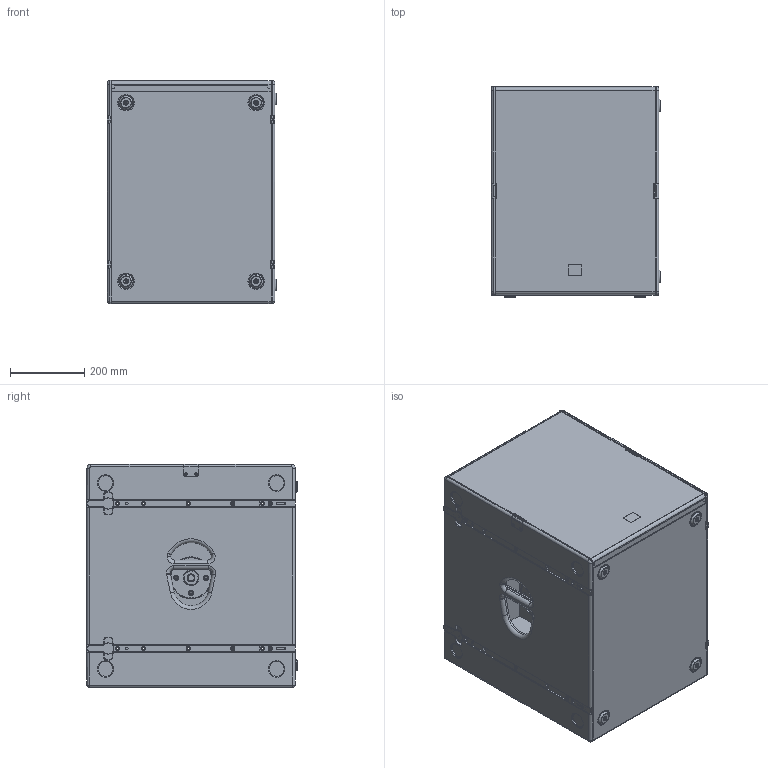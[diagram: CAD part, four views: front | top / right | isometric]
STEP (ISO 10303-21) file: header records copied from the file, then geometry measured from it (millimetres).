
FILE_DESCRIPTION (( 'STEP AP203' ), '1' );
FILE_NAME ('SEEBURG_Galeo-T-Sub.STEP', '2016-02-25T09:41:11', ( 'Michael Anter' ), ( 'SEEBURG acoustic line GmbH' ), 'SwSTEP 2.0', 'SolidWorks 2009', '' );
FILE_SCHEMA (( 'CONFIG_CONTROL_DESIGN' ));
Length unit declared in the file: millimetre
Products named in the file (1): SEEBURG_Galeo-T-Sub
Bounding box: 455 x 565 x 600 mm (x, y, z)
Volume: 21580841.8 mm3; surface area: 4143123.6 mm2
Topology: 49 solids, 49 shells, 1775 faces, 4536 edges, 2885 vertices
Faces by surface type: cylinder 736, plane 695, cone 226, torus 95, bspline 15, sphere 8
Entity records: 56198 total; most frequent: CARTESIAN_POINT 11170, DIRECTION 9872, ORIENTED_EDGE 9040, EDGE_CURVE 4520, AXIS2_PLACEMENT_3D 3653, VERTEX_POINT 2885, LINE 2566, VECTOR 2566
